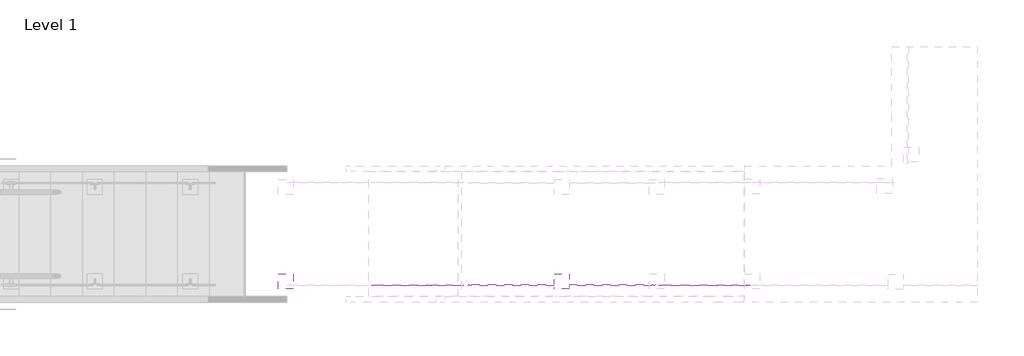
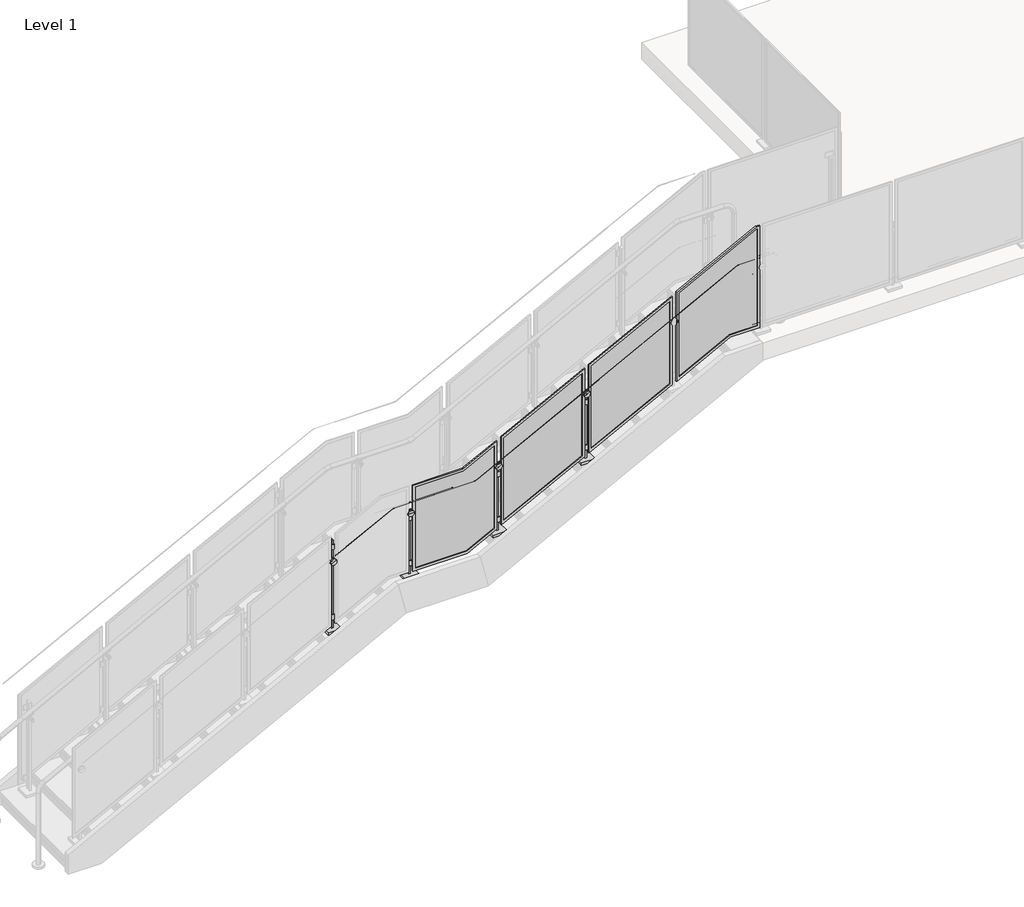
# One storey, part 11 of 28: 4 railings.
"""IFC4 building model written with IfcOpenShell, lengths in millimetres."""

from ifc_helpers import new_model, si_unit, point, frame, frame_2d, origin, place, context, project, spatial, polyline, circle_curve, ellipse_curve, trimmed, segment, composite_curve, outline, extrude, transform, mapped, element, save
from ifc_brep_helpers import plane_surface, cylinder_surface, advanced_brep
from components import standard_pp01_6bf6f29d, standard_pp01_9a46c041

model = new_model("IFC4")

# Units and contexts
model_context = context("Model", 3, world=origin())
ifc_project = project(units=[si_unit("LENGTHUNIT", "METRE", prefix="MILLI")], contexts=[model_context])

# Site, building, storey
site = spatial("IfcSite", under=ifc_project)
building = spatial("IfcBuilding", under=site)
storey = spatial("IfcBuildingStorey", under=building, Name="Level 1", Elevation=0.0)

# Railings
placement = place(None, origin())
element("IfcRailing", 1, ObjectType="Metal-Panel-VIVA-STRUC-Slab-Top-Anchor-Stairs-Landing", at=placement, inside=storey, context=model_context, shape_type="SolidModel", body=[
    advanced_brep(
    [(-16484.3313244, -18664.9554387, 2381.2638324), (-16484.3313244, -18663.9554387, 2381.2638324), (-15931.7592018, -18664.9554387, 2668.3142857), (-15931.7592018, -18663.9554387, 2668.3142857), (-15144.3592018, -18664.9554387, 2668.3142857), (-15144.3592018, -18663.9554387, 2668.3142857), (-13959.1395244, -18664.9554387, 3284.0128194), (-13959.1395244, -18663.9554387, 3284.0128194)],
    [
        (0, 1, ellipse_curve(frame((-16484.3313244, -18664.4554387, 2381.2638324), z_axis=(-1.0, 0.0, 0.0), x_axis=(0.0, 0.0, -0.9999999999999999)), 0.5634403, 0.5)),
        (1, 0, ellipse_curve(frame((-16484.3313244, -18664.4554387, 2381.2638324), z_axis=(-1.0, 0.0, 0.0), x_axis=(0.0, 0.0, -0.9999999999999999)), 0.5634403, 0.5)),
        (0, 2),
        (2, 3, ellipse_curve(frame((-15931.7592018, -18664.4554387, 2668.3142857), z_axis=(-0.9714436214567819, 0.0, -0.23727050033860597), x_axis=(0.23727050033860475, 0.0, -0.9714436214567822)), 0.5146979, 0.5)),
        (3, 1),
        (3, 2, ellipse_curve(frame((-15931.7592018, -18664.4554387, 2668.3142857), z_axis=(-0.9714436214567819, 0.0, -0.23727050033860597), x_axis=(0.23727050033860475, 0.0, -0.9714436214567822)), 0.5146979, 0.5)),
        (2, 4),
        (4, 5, ellipse_curve(frame((-15144.3592018, -18664.4554387, 2668.3142857), z_axis=(-0.9714436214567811, 0.0, -0.23727050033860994), x_axis=(-0.2372705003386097, 0.0, 0.9714436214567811)), 0.5146979, 0.5)),
        (5, 3),
        (5, 4, ellipse_curve(frame((-15144.3592018, -18664.4554387, 2668.3142857), z_axis=(-0.9714436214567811, 0.0, -0.23727050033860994), x_axis=(-0.2372705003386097, 0.0, 0.9714436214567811)), 0.5146979, 0.5)),
        (6, 7, ellipse_curve(frame((-13959.1395244, -18664.4554387, 3284.0128194), z_axis=(1.0, 0.0, 0.0), x_axis=(0.0, 0.0, -1.0)), 0.5634403, 0.5)),
        (7, 6, ellipse_curve(frame((-13959.1395244, -18664.4554387, 3284.0128194), z_axis=(1.0, 0.0, 0.0), x_axis=(0.0, 0.0, -1.0)), 0.5634403, 0.5)),
        (4, 6),
        (7, 5),
    ],
    [
        plane_surface(frame((-16484.3313244, -18664.4554387, 2381.8272727), z_axis=(-1.0, 0.0, 0.0), x_axis=(0.0, 1.0, 0.0))),
        cylinder_surface(frame((-16484.1008295, -18664.4554387, 2381.38357), z_axis=(-0.8874054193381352, 0.0, -0.460989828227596), x_axis=(0.0, 1.0, 0.0)), 0.5),
        cylinder_surface(frame((-15931.8813244, -18664.4554387, 2668.3142857), z_axis=(-1.0, 0.0, 0.0), x_axis=(0.0, 1.0, 0.0)), 0.5),
        plane_surface(frame((-13959.1395244, -18664.4554387, 3284.5762597), z_axis=(1.0, 0.0, 0.0), x_axis=(0.0, 1.0, 0.0))),
        cylinder_surface(frame((-15144.2508295, -18664.4554387, 2668.370583), z_axis=(-0.8874054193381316, 0.0, -0.4609898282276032), x_axis=(0.0, 1.0, 0.0)), 0.5),
    ],
    [
        (0, [[1, 2]]),
        (1, [[-1, 3, 4, 5]]),
        (1, [[-2, -5, 6, -3]]),
        (2, [[-4, 7, 8, 9]]),
        (2, [[-6, -9, 10, -7]]),
        (3, [[11, 12]]),
        (4, [[-8, 13, -12, 14]]),
        (4, [[-10, -14, -11, -13]]),
    ],
),
    extrude(outline(polyline([(-14838.9708437, -18439.3382387), (-14762.7694052, -18439.3382387), (-14762.7694052, -18446.4502387), (-14838.9708437, -18446.4502387), (-14838.9708437, -18439.3382387)])), frame((0.0, 0.0, 2456.8331429), z_axis=(0.0, 0.0, 1.0), x_axis=(1.0, 0.0, 0.0)), (0.0, 0.0, 1.0), 50.8),
    extrude(outline(polyline([(-14838.9708437, -18439.3382387), (-14762.7694052, -18439.3382387), (-14762.7694052, -18446.4502387), (-14838.9708437, -18446.4502387), (-14838.9708437, -18439.3382387)])), frame((0.0, 0.0, 1999.6331429), z_axis=(0.0, 0.0, 1.0), x_axis=(1.0, 0.0, 0.0)), (0.0, 0.0, 1.0), 50.8),
    extrude(outline(composite_curve([segment(polyline([(2.9997401, 0.0), (0.0, 0.0)]), True, "CONTINUOUS"), segment(trimmed(circle_curve(frame_2d((-19.0451472, -1e-07)), 19.0451471), [point((0.0, 0.0))], [point((-23.6280664, 18.4855208))], True, "CARTESIAN"), True, "CONTINUOUS"), segment(polyline([(-23.6280664, 18.4855208), (-24.3499072, 21.3971159)]), True, "CONTINUOUS"), segment(trimmed(circle_curve(frame_2d((-19.0451472, -1e-07)), 22.0448871), [point((-24.3499072, 21.3971159))], [point((2.9997401, 0.0))], False, "CARTESIAN"), True, "CONTINUOUS")], self_intersect=False)), frame((-14863.3578349, -18385.2502387, 2605.6654072), z_axis=(0.887405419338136, 0.0, 0.46098982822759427), x_axis=(0.2840545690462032, -0.7876022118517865, -0.5468050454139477)), (0.0, 0.0, 1.0), 79.1184357),
    advanced_brep(
    [(-14788.4729468, -18370.2502387, 2547.3256434), (-14788.4729468, -18377.3939887, 2547.3256434), (-14788.4729468, -18363.1064887, 2547.3256434), (-14824.3321931, -18377.3939887, 2616.3546925), (-14824.3321931, -18370.2502387, 2616.3546925), (-14824.3321931, -18363.1064887, 2616.3546925)],
    [
        (0, 1),
        (1, 2, circle_curve(frame((-14788.4729468, -18370.2502387, 2547.3256434), z_axis=(0.4609898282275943, 0.0, -0.8874054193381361), x_axis=(0.0, 1.0, 0.0)), 7.14375)),
        (2, 0),
        (3, 4),
        (4, 5),
        (5, 3, circle_curve(frame((-14824.3321931, -18370.2502387, 2616.3546925), z_axis=(-0.4609898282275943, 0.0, 0.8874054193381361), x_axis=(0.0, 1.0, 0.0)), 7.14375)),
        (2, 1, circle_curve(frame((-14788.4729468, -18370.2502387, 2547.3256434), z_axis=(0.4609898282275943, 0.0, -0.8874054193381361), x_axis=(0.0, 1.0, 0.0)), 7.14375)),
        (3, 5, circle_curve(frame((-14824.3321931, -18370.2502387, 2616.3546925), z_axis=(-0.4609898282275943, 0.0, 0.8874054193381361), x_axis=(0.0, 1.0, 0.0)), 7.14375)),
        (1, 3),
        (5, 2),
    ],
    [
        plane_surface(frame((-14788.4729468, -18370.2502387, 2547.3256434), z_axis=(0.4609898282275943, 0.0, -0.8874054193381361), x_axis=(0.0, 1.0, 0.0))),
        plane_surface(frame((-14824.3321931, -18370.2502387, 2616.3546925), z_axis=(-0.4609898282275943, 0.0, 0.8874054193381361), x_axis=(0.0, 1.0, 0.0))),
        cylinder_surface(frame((-14671.5187469, -18370.2502387, 2322.1888087), z_axis=(0.4609898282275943, 0.0, -0.8874054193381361), x_axis=(0.0, 1.0, 0.0)), 7.14375),
    ],
    [
        (0, [[1, 2, 3]]),
        (1, [[4, 5, 6]]),
        (0, [[-3, 7, -1]]),
        (1, [[-5, -4, 8]]),
        (2, [[9, -6, 10, -2]]),
        (2, [[-10, -8, -9, -7]]),
    ],
),
    advanced_brep(
    [(-14827.6364904, -18455.9752387, 2557.2856047), (-14806.5051488, -18455.9752387, 2568.262925), (-14795.2351, -18455.9752387, 2574.1174958), (-14774.1037585, -18455.9752387, 2585.0948161), (-14827.6364904, -18463.9127387, 2557.2856047), (-14774.1037585, -18463.9127387, 2585.0948161), (-14827.6364904, -18438.5127387, 2557.2856047), (-14812.1401733, -18438.5127387, 2565.3356396), (-14789.6000756, -18438.5127387, 2577.0447812), (-14774.1037585, -18438.5127387, 2585.0948161), (-14827.6364904, -18446.4502387, 2557.2856047), (-14774.1037585, -18446.4502387, 2585.0948161), (-14800.8701244, -18463.9127387, 2571.1902104), (-14812.1401733, -18359.1377387, 2565.3356396), (-14800.8701244, -18359.1377387, 2571.1902104), (-14789.6000756, -18359.1377387, 2577.0447812), (-14806.5051488, -18446.4502387, 2568.262925), (-14795.2351, -18446.4502387, 2574.1174958)],
    [
        (0, 1),
        (1, 2, circle_curve(frame((-14800.8701244, -18455.9752387, 2571.1902104), z_axis=(0.0, -1.0, 0.0), x_axis=(0.8874054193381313, 0.0, 0.4609898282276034)), 6.35)),
        (2, 3),
        (3, 0, circle_curve(frame((-14800.8701244, -18455.9752387, 2571.1902104), z_axis=(0.0, 1.0, 0.0), x_axis=(0.8874054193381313, 0.0, 0.4609898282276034)), 30.1625)),
        (4, 0),
        (3, 5),
        (5, 4, circle_curve(frame((-14800.8701244, -18463.9127387, 2571.1902104), z_axis=(0.0, 1.0, 0.0), x_axis=(0.8874054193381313, 0.0, 0.4609898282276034)), 30.1625)),
        (6, 7),
        (7, 8, circle_curve(frame((-14800.8701244, -18438.5127387, 2571.1902104), z_axis=(0.0, -1.0, 0.0), x_axis=(0.8874054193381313, 0.0, 0.4609898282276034)), 12.7)),
        (8, 9),
        (9, 6, circle_curve(frame((-14800.8701244, -18438.5127387, 2571.1902104), z_axis=(0.0, 1.0, 0.0), x_axis=(0.8874054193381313, 0.0, 0.4609898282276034)), 30.1625)),
        (10, 6),
        (9, 11),
        (11, 10, circle_curve(frame((-14800.8701244, -18446.4502387, 2571.1902104), z_axis=(0.0, 1.0, 0.0), x_axis=(0.8874054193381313, 0.0, 0.4609898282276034)), 30.1625)),
        (3, 0, circle_curve(frame((-14800.8701244, -18455.9752387, 2571.1902104), z_axis=(0.0, -1.0, 0.0), x_axis=(0.8874054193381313, 0.0, 0.4609898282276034)), 30.1625)),
        (4, 5, circle_curve(frame((-14800.8701244, -18463.9127387, 2571.1902104), z_axis=(0.0, 1.0, 0.0), x_axis=(0.8874054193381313, 0.0, 0.4609898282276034)), 30.1625)),
        (12, 4),
        (5, 12),
        (13, 14),
        (14, 15),
        (15, 13, circle_curve(frame((-14800.8701244, -18359.1377387, 2571.1902104), z_axis=(0.0, 1.0, 0.0), x_axis=(0.8874054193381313, 0.0, 0.4609898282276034)), 12.7)),
        (13, 15, circle_curve(frame((-14800.8701244, -18359.1377387, 2571.1902104), z_axis=(0.0, 1.0, 0.0), x_axis=(0.8874054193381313, 0.0, 0.4609898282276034)), 12.7)),
        (7, 13),
        (15, 8),
        (7, 8, circle_curve(frame((-14800.8701244, -18438.5127387, 2571.1902104), z_axis=(0.0, 1.0, 0.0), x_axis=(0.8874054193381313, 0.0, 0.4609898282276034)), 12.7)),
        (6, 9, circle_curve(frame((-14800.8701244, -18438.5127387, 2571.1902104), z_axis=(0.0, 1.0, 0.0), x_axis=(0.8874054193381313, 0.0, 0.4609898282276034)), 30.1625)),
        (10, 11, circle_curve(frame((-14800.8701244, -18446.4502387, 2571.1902104), z_axis=(0.0, 1.0, 0.0), x_axis=(0.8874054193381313, 0.0, 0.4609898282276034)), 30.1625)),
        (16, 10),
        (11, 17),
        (17, 16, circle_curve(frame((-14800.8701244, -18446.4502387, 2571.1902104), z_axis=(0.0, 1.0, 0.0), x_axis=(0.8874054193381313, 0.0, 0.4609898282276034)), 6.35)),
        (16, 17, circle_curve(frame((-14800.8701244, -18446.4502387, 2571.1902104), z_axis=(0.0, 1.0, 0.0), x_axis=(0.8874054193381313, 0.0, 0.4609898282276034)), 6.35)),
        (1, 16),
        (17, 2),
        (1, 2, circle_curve(frame((-14800.8701244, -18455.9752387, 2571.1902104), z_axis=(0.0, 1.0, 0.0), x_axis=(0.8874054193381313, 0.0, 0.4609898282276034)), 6.35)),
    ],
    [
        plane_surface(frame((-14800.8701244, -18455.9752387, 2571.1902104), z_axis=(0.0, 1.0, 0.0), x_axis=(0.8874054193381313, 0.0, 0.4609898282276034))),
        cylinder_surface(frame((-14800.8701244, -19970.4502387, 2571.1902104), z_axis=(0.0, -1.0, 0.0), x_axis=(0.8874054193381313, 0.0, 0.4609898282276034)), 30.1625),
        plane_surface(frame((-14800.8701244, -18438.5127387, 2571.1902104), z_axis=(0.0, 1.0, 0.0), x_axis=(0.8874054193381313, 0.0, 0.4609898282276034))),
        plane_surface(frame((-14800.8701244, -18463.9127387, 2571.1902104), z_axis=(0.0, -1.0, 0.0), x_axis=(0.8874054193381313, 0.0, 0.4609898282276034))),
        plane_surface(frame((-14800.8701244, -18359.1377387, 2571.1902104), z_axis=(0.0, 1.0, 0.0), x_axis=(0.8874054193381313, 0.0, 0.4609898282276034))),
        cylinder_surface(frame((-14800.8701244, -19970.4502387, 2571.1902104), z_axis=(0.0, -1.0, 0.0), x_axis=(0.8874054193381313, 0.0, 0.4609898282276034)), 12.7),
        plane_surface(frame((-14800.8701244, -18446.4502387, 2571.1902104), z_axis=(0.0, -1.0, 0.0), x_axis=(0.8874054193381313, 0.0, 0.4609898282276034))),
        cylinder_surface(frame((-14800.8701244, -19970.4502387, 2571.1902104), z_axis=(0.0, -1.0, 0.0), x_axis=(0.8874054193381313, 0.0, 0.4609898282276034)), 6.35),
    ],
    [
        (0, [[1, 2, 3, 4]]),
        (1, [[5, -4, 6, 7]]),
        (2, [[8, 9, 10, 11]]),
        (1, [[12, -11, 13, 14]]),
        (1, [[-6, 15, -5, 16]]),
        (3, [[17, -7, 18]]),
        (3, [[-18, -16, -17]]),
        (4, [[19, 20, 21]]),
        (4, [[-20, -19, 22]]),
        (5, [[23, -21, 24, -9]]),
        (5, [[-24, -22, -23, 25]]),
        (2, [[-10, -25, -8, 26]]),
        (1, [[-13, -26, -12, 27]]),
        (6, [[28, -14, 29, 30]]),
        (6, [[-29, -27, -28, 31]]),
        (7, [[32, -30, 33, -2]]),
        (7, [[-33, -31, -32, 34]]),
        (0, [[-3, -34, -1, -15]]),
    ],
),
    extrude(outline(polyline([(-14866.7577244, -18351.2256387), (-14734.9825244, -18351.2256387), (-14734.9825244, -18483.0008387), (-14866.7577244, -18483.0008387), (-14866.7577244, -18351.2256387)])), frame((0.0, 0.0, 1886.8571429), z_axis=(0.0, 0.0, 1.0), x_axis=(1.0, 0.0, 0.0)), (0.0, 0.0, 1.0), 25.4),
    extrude(outline(polyline([(-14808.8097161, -18394.8882387), (-14792.9305328, -18394.8882387), (-14792.9305328, -18439.3382387), (-14808.8097161, -18439.3382387), (-14808.8097161, -18394.8882387)])), frame((0.0, 0.0, 1886.8571429), z_axis=(0.0, 0.0, 1.0), x_axis=(1.0, 0.0, 0.0)), (0.0, 0.0, 1.0), 660.4),
    extrude(outline(polyline([(-15680.7014437, -18439.3382387), (-15604.5000052, -18439.3382387), (-15604.5000052, -18446.4502387), (-15680.7014437, -18446.4502387), (-15680.7014437, -18439.3382387)])), frame((0.0, 0.0, 2311.6902857), z_axis=(0.0, 0.0, 1.0), x_axis=(1.0, 0.0, 0.0)), (0.0, 0.0, 1.0), 50.8),
    extrude(outline(polyline([(-15680.7014437, -18439.3382387), (-15604.5000052, -18439.3382387), (-15604.5000052, -18446.4502387), (-15680.7014437, -18446.4502387), (-15680.7014437, -18439.3382387)])), frame((0.0, 0.0, 1854.4902857), z_axis=(0.0, 0.0, 1.0), x_axis=(1.0, 0.0, 0.0)), (0.0, 0.0, 1.0), 50.8),
    extrude(outline(composite_curve([segment(polyline([(-18387.6128406, 2450.2421693), (-18385.2502387, 2452.0905611)]), True, "CONTINUOUS"), segment(trimmed(circle_curve(frame_2d((-18370.2502387, 2463.8258766)), 19.0451471), [point((-18385.2502387, 2452.0905611))], [point((-18355.2502387, 2452.0905611))], True, "CARTESIAN"), True, "CONTINUOUS"), segment(polyline([(-18355.2502387, 2452.0905611), (-18352.8876369, 2450.2421693)]), True, "CONTINUOUS"), segment(trimmed(circle_curve(frame_2d((-18370.2502387, 2463.8258766)), 22.0448871), [point((-18352.8876369, 2450.2421693))], [point((-18387.6128406, 2450.2421693))], False, "CARTESIAN"), True, "CONTINUOUS")], self_intersect=False)), frame((-15682.1599423, 0.0, 0.0), z_axis=(1.0, 0.0, 0.0), x_axis=(0.0, 1.0, 0.0)), (0.0, 0.0, 1.0), 79.1184357),
    advanced_brep(
    [(-15642.6007244, -18370.2502387, 2365.7983669), (-15642.6007244, -18377.3939887, 2365.7983669), (-15642.6007244, -18363.1064887, 2365.7983669), (-15642.6007244, -18377.3939887, 2443.5858669), (-15642.6007244, -18370.2502387, 2443.5858669), (-15642.6007244, -18363.1064887, 2443.5858669)],
    [
        (0, 1),
        (1, 2, circle_curve(frame((-15642.6007244, -18370.2502387, 2365.7983669), z_axis=(0.0, 0.0, -1.0), x_axis=(0.0, 1.0, 0.0)), 7.14375)),
        (2, 0),
        (3, 4),
        (4, 5),
        (5, 3, circle_curve(frame((-15642.6007244, -18370.2502387, 2443.5858669), z_axis=(0.0, 0.0, 1.0), x_axis=(0.0, 1.0, 0.0)), 7.14375)),
        (2, 1, circle_curve(frame((-15642.6007244, -18370.2502387, 2365.7983669), z_axis=(0.0, 0.0, -1.0), x_axis=(0.0, 1.0, 0.0)), 7.14375)),
        (3, 5, circle_curve(frame((-15642.6007244, -18370.2502387, 2443.5858669), z_axis=(0.0, 0.0, 1.0), x_axis=(0.0, 1.0, 0.0)), 7.14375)),
        (1, 3),
        (5, 2),
    ],
    [
        plane_surface(frame((-15642.6007244, -18370.2502387, 2365.7983669), z_axis=(0.0, 0.0, -1.0), x_axis=(0.0, 1.0, 0.0))),
        plane_surface(frame((-15642.6007244, -18370.2502387, 2443.5858669), z_axis=(0.0, 0.0, 1.0), x_axis=(0.0, 1.0, 0.0))),
        cylinder_surface(frame((-15642.6007244, -18370.2502387, 2112.0960231), z_axis=(0.0, 0.0, -1.0), x_axis=(0.0, 1.0, 0.0)), 7.14375),
    ],
    [
        (0, [[1, 2, 3]]),
        (1, [[4, 5, 6]]),
        (0, [[-3, 7, -1]]),
        (1, [[-5, -4, 8]]),
        (2, [[9, -6, 10, -2]]),
        (2, [[-10, -8, -9, -7]]),
    ],
),
    advanced_brep(
    [(-15672.7632244, -18455.9752387, 2392.6908857), (-15648.9507244, -18455.9752387, 2392.6908857), (-15636.2507244, -18455.9752387, 2392.6908857), (-15612.4382244, -18455.9752387, 2392.6908857), (-15672.7632244, -18463.9127387, 2392.6908857), (-15612.4382244, -18463.9127387, 2392.6908857), (-15672.7632244, -18438.5127387, 2392.6908857), (-15655.3007244, -18438.5127387, 2392.6908857), (-15629.9007244, -18438.5127387, 2392.6908857), (-15612.4382244, -18438.5127387, 2392.6908857), (-15672.7632244, -18446.4502387, 2392.6908857), (-15612.4382244, -18446.4502387, 2392.6908857), (-15642.6007244, -18463.9127387, 2392.6908857), (-15655.3007244, -18359.1377387, 2392.6908857), (-15642.6007244, -18359.1377387, 2392.6908857), (-15629.9007244, -18359.1377387, 2392.6908857), (-15648.9507244, -18446.4502387, 2392.6908857), (-15636.2507244, -18446.4502387, 2392.6908857)],
    [
        (0, 1),
        (1, 2, circle_curve(frame((-15642.6007244, -18455.9752387, 2392.6908857), z_axis=(0.0, -1.0, 0.0), x_axis=(1.0, 0.0, 0.0)), 6.35)),
        (2, 3),
        (3, 0, circle_curve(frame((-15642.6007244, -18455.9752387, 2392.6908857), z_axis=(0.0, 1.0, 0.0), x_axis=(1.0, 0.0, 0.0)), 30.1625)),
        (4, 0),
        (3, 5),
        (5, 4, circle_curve(frame((-15642.6007244, -18463.9127387, 2392.6908857), z_axis=(0.0, 1.0, 0.0), x_axis=(1.0, 0.0, 0.0)), 30.1625)),
        (6, 7),
        (7, 8, circle_curve(frame((-15642.6007244, -18438.5127387, 2392.6908857), z_axis=(0.0, -1.0, 0.0), x_axis=(1.0, 0.0, 0.0)), 12.7)),
        (8, 9),
        (9, 6, circle_curve(frame((-15642.6007244, -18438.5127387, 2392.6908857), z_axis=(0.0, 1.0, 0.0), x_axis=(1.0, 0.0, 0.0)), 30.1625)),
        (10, 6),
        (9, 11),
        (11, 10, circle_curve(frame((-15642.6007244, -18446.4502387, 2392.6908857), z_axis=(0.0, 1.0, 0.0), x_axis=(1.0, 0.0, 0.0)), 30.1625)),
        (3, 0, circle_curve(frame((-15642.6007244, -18455.9752387, 2392.6908857), z_axis=(0.0, -1.0, 0.0), x_axis=(1.0, 0.0, 0.0)), 30.1625)),
        (4, 5, circle_curve(frame((-15642.6007244, -18463.9127387, 2392.6908857), z_axis=(0.0, 1.0, 0.0), x_axis=(1.0, 0.0, 0.0)), 30.1625)),
        (12, 4),
        (5, 12),
        (13, 14),
        (14, 15),
        (15, 13, circle_curve(frame((-15642.6007244, -18359.1377387, 2392.6908857), z_axis=(0.0, 1.0, 0.0), x_axis=(1.0, 0.0, 0.0)), 12.7)),
        (13, 15, circle_curve(frame((-15642.6007244, -18359.1377387, 2392.6908857), z_axis=(0.0, 1.0, 0.0), x_axis=(1.0, 0.0, 0.0)), 12.7)),
        (7, 13),
        (15, 8),
        (7, 8, circle_curve(frame((-15642.6007244, -18438.5127387, 2392.6908857), z_axis=(0.0, 1.0, 0.0), x_axis=(1.0, 0.0, 0.0)), 12.7)),
        (6, 9, circle_curve(frame((-15642.6007244, -18438.5127387, 2392.6908857), z_axis=(0.0, 1.0, 0.0), x_axis=(1.0, 0.0, 0.0)), 30.1625)),
        (10, 11, circle_curve(frame((-15642.6007244, -18446.4502387, 2392.6908857), z_axis=(0.0, 1.0, 0.0), x_axis=(1.0, 0.0, 0.0)), 30.1625)),
        (16, 10),
        (11, 17),
        (17, 16, circle_curve(frame((-15642.6007244, -18446.4502387, 2392.6908857), z_axis=(0.0, 1.0, 0.0), x_axis=(1.0, 0.0, 0.0)), 6.35)),
        (16, 17, circle_curve(frame((-15642.6007244, -18446.4502387, 2392.6908857), z_axis=(0.0, 1.0, 0.0), x_axis=(1.0, 0.0, 0.0)), 6.35)),
        (1, 16),
        (17, 2),
        (1, 2, circle_curve(frame((-15642.6007244, -18455.9752387, 2392.6908857), z_axis=(0.0, 1.0, 0.0), x_axis=(1.0, 0.0, 0.0)), 6.35)),
    ],
    [
        plane_surface(frame((-15642.6007244, -18455.9752387, 2392.6908857), z_axis=(0.0, 1.0, 0.0), x_axis=(1.0, 0.0, 0.0))),
        cylinder_surface(frame((-15642.6007244, -19970.4502387, 2392.6908857), z_axis=(0.0, -1.0, 0.0), x_axis=(1.0, 0.0, 0.0)), 30.1625),
        plane_surface(frame((-15642.6007244, -18438.5127387, 2392.6908857), z_axis=(0.0, 1.0, 0.0), x_axis=(1.0, 0.0, 0.0))),
        plane_surface(frame((-15642.6007244, -18463.9127387, 2392.6908857), z_axis=(0.0, -1.0, 0.0), x_axis=(1.0, 0.0, 0.0))),
        plane_surface(frame((-15642.6007244, -18359.1377387, 2392.6908857), z_axis=(0.0, 1.0, 0.0), x_axis=(1.0, 0.0, 0.0))),
        cylinder_surface(frame((-15642.6007244, -19970.4502387, 2392.6908857), z_axis=(0.0, -1.0, 0.0), x_axis=(1.0, 0.0, 0.0)), 12.7),
        plane_surface(frame((-15642.6007244, -18446.4502387, 2392.6908857), z_axis=(0.0, -1.0, 0.0), x_axis=(1.0, 0.0, 0.0))),
        cylinder_surface(frame((-15642.6007244, -19970.4502387, 2392.6908857), z_axis=(0.0, -1.0, 0.0), x_axis=(1.0, 0.0, 0.0)), 6.35),
    ],
    [
        (0, [[1, 2, 3, 4]]),
        (1, [[5, -4, 6, 7]]),
        (2, [[8, 9, 10, 11]]),
        (1, [[12, -11, 13, 14]]),
        (1, [[-6, 15, -5, 16]]),
        (3, [[17, -7, 18]]),
        (3, [[-18, -16, -17]]),
        (4, [[19, 20, 21]]),
        (4, [[-20, -19, 22]]),
        (5, [[23, -21, 24, -9]]),
        (5, [[-24, -22, -23, 25]]),
        (2, [[-10, -25, -8, 26]]),
        (1, [[-13, -26, -12, 27]]),
        (6, [[28, -14, 29, 30]]),
        (6, [[-29, -27, -28, 31]]),
        (7, [[32, -30, 33, -2]]),
        (7, [[-33, -31, -32, 34]]),
        (0, [[-3, -34, -1, -15]]),
    ],
),
    extrude(outline(polyline([(-15708.4883244, -18351.2256387), (-15576.7131244, -18351.2256387), (-15576.7131244, -18483.0008387), (-15708.4883244, -18483.0008387), (-15708.4883244, -18351.2256387)])), frame((0.0, 0.0, 1741.7142857), z_axis=(0.0, 0.0, 1.0), x_axis=(1.0, 0.0, 0.0)), (0.0, 0.0, 1.0), 25.4),
    extrude(outline(polyline([(-15650.5403161, -18394.8882387), (-15634.6611328, -18394.8882387), (-15634.6611328, -18439.3382387), (-15650.5403161, -18439.3382387), (-15650.5403161, -18394.8882387)])), frame((0.0, 0.0, 1741.7142857), z_axis=(0.0, 0.0, 1.0), x_axis=(1.0, 0.0, 0.0)), (0.0, 0.0, 1.0), 660.4),
    extrude(outline(polyline([(-16420.8320437, -18439.3382387), (-16344.6306052, -18439.3382387), (-16344.6306052, -18446.4502387), (-16420.8320437, -18446.4502387), (-16420.8320437, -18439.3382387)])), frame((0.0, 0.0, 2275.4045714), z_axis=(0.0, 0.0, 1.0), x_axis=(1.0, 0.0, 0.0)), (0.0, 0.0, 1.0), 50.8),
    extrude(outline(polyline([(-16420.8320437, -18439.3382387), (-16344.6306052, -18439.3382387), (-16344.6306052, -18446.4502387), (-16420.8320437, -18446.4502387), (-16420.8320437, -18439.3382387)])), frame((0.0, 0.0, 1564.2045714), z_axis=(0.0, 0.0, 1.0), x_axis=(1.0, 0.0, 0.0)), (0.0, 0.0, 1.0), 50.8),
    extrude(outline(composite_curve([segment(polyline([(2.99974, -1e-07), (0.0, 0.0)]), True, "CONTINUOUS"), segment(trimmed(circle_curve(frame_2d((-19.0451472, -1e-07)), 19.0451471), [point((0.0, 0.0))], [point((-23.6280664, 18.4855208))], True, "CARTESIAN"), True, "CONTINUOUS"), segment(polyline([(-23.6280664, 18.4855208), (-24.3499072, 21.3971158)]), True, "CONTINUOUS"), segment(trimmed(circle_curve(frame_2d((-19.0451472, -1e-07)), 22.0448871), [point((-24.3499072, 21.3971158))], [point((2.99974, -1e-07))], False, "CARTESIAN"), True, "CONTINUOUS")], self_intersect=False)), frame((-16445.2190349, -18385.2502387, 2192.9582903), z_axis=(0.8874054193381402, 0.0, 0.4609898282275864), x_axis=(0.28405456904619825, -0.7876022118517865, -0.5468050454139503)), (0.0, 0.0, 1.0), 79.1184357),
    advanced_brep(
    [(-16370.3341468, -18370.2502387, 2134.6185266), (-16370.3341468, -18377.3939887, 2134.6185266), (-16370.3341468, -18363.1064887, 2134.6185266), (-16406.1933931, -18377.3939887, 2203.6475756), (-16406.1933931, -18370.2502387, 2203.6475756), (-16406.1933931, -18363.1064887, 2203.6475756)],
    [
        (0, 1),
        (1, 2, circle_curve(frame((-16370.3341468, -18370.2502387, 2134.6185266), z_axis=(0.4609898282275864, 0.0, -0.8874054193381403), x_axis=(0.0, 1.0000000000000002, 0.0)), 7.14375)),
        (2, 0),
        (3, 4),
        (4, 5),
        (5, 3, circle_curve(frame((-16406.1933931, -18370.2502387, 2203.6475756), z_axis=(-0.4609898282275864, 0.0, 0.8874054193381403), x_axis=(0.0, 1.0000000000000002, 0.0)), 7.14375)),
        (2, 1, circle_curve(frame((-16370.3341468, -18370.2502387, 2134.6185266), z_axis=(0.4609898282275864, 0.0, -0.8874054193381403), x_axis=(0.0, 1.0000000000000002, 0.0)), 7.14375)),
        (3, 5, circle_curve(frame((-16406.1933931, -18370.2502387, 2203.6475756), z_axis=(-0.4609898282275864, 0.0, 0.8874054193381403), x_axis=(0.0, 1.0000000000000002, 0.0)), 7.14375)),
        (1, 3),
        (5, 2),
    ],
    [
        plane_surface(frame((-16370.3341468, -18370.2502387, 2134.6185266), z_axis=(0.4609898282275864, 0.0, -0.8874054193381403), x_axis=(0.0, 1.0, 0.0))),
        plane_surface(frame((-16406.1933931, -18370.2502387, 2203.6475756), z_axis=(-0.4609898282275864, 0.0, 0.8874054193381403), x_axis=(0.0, 1.0, 0.0))),
        cylinder_surface(frame((-16253.3799469, -18370.2502387, 1909.4816918), z_axis=(0.4609898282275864, 0.0, -0.8874054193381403), x_axis=(0.0, 1.0000000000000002, 0.0)), 7.14375),
    ],
    [
        (0, [[1, 2, 3]]),
        (1, [[4, 5, 6]]),
        (0, [[-3, 7, -1]]),
        (1, [[-5, -4, 8]]),
        (2, [[9, -6, 10, -2]]),
        (2, [[-10, -8, -9, -7]]),
    ],
),
    advanced_brep(
    [(-16409.4976904, -18455.9752387, 2144.5784878), (-16388.3663488, -18455.9752387, 2155.5558081), (-16377.0963, -18455.9752387, 2161.4103789), (-16355.9649585, -18455.9752387, 2172.3876992), (-16409.4976904, -18463.9127387, 2144.5784878), (-16355.9649585, -18463.9127387, 2172.3876992), (-16409.4976904, -18438.5127387, 2144.5784878), (-16394.0013733, -18438.5127387, 2152.6285227), (-16371.4612756, -18438.5127387, 2164.3376643), (-16355.9649585, -18438.5127387, 2172.3876992), (-16409.4976904, -18446.4502387, 2144.5784878), (-16355.9649585, -18446.4502387, 2172.3876992), (-16382.7313244, -18463.9127387, 2158.4830935), (-16394.0013733, -18359.1377387, 2152.6285227), (-16382.7313244, -18359.1377387, 2158.4830935), (-16371.4612756, -18359.1377387, 2164.3376643), (-16388.3663488, -18446.4502387, 2155.5558081), (-16377.0963, -18446.4502387, 2161.4103789)],
    [
        (0, 1),
        (1, 2, circle_curve(frame((-16382.7313244, -18455.9752387, 2158.4830935), z_axis=(0.0, -1.0, 0.0), x_axis=(0.8874054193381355, 0.0, 0.4609898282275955)), 6.35)),
        (2, 3),
        (3, 0, circle_curve(frame((-16382.7313244, -18455.9752387, 2158.4830935), z_axis=(0.0, 1.0, 0.0), x_axis=(0.8874054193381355, 0.0, 0.4609898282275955)), 30.1625)),
        (4, 0),
        (3, 5),
        (5, 4, circle_curve(frame((-16382.7313244, -18463.9127387, 2158.4830935), z_axis=(0.0, 1.0, 0.0), x_axis=(0.8874054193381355, 0.0, 0.4609898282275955)), 30.1625)),
        (6, 7),
        (7, 8, circle_curve(frame((-16382.7313244, -18438.5127387, 2158.4830935), z_axis=(0.0, -1.0, 0.0), x_axis=(0.8874054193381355, 0.0, 0.4609898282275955)), 12.7)),
        (8, 9),
        (9, 6, circle_curve(frame((-16382.7313244, -18438.5127387, 2158.4830935), z_axis=(0.0, 1.0, 0.0), x_axis=(0.8874054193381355, 0.0, 0.4609898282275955)), 30.1625)),
        (10, 6),
        (9, 11),
        (11, 10, circle_curve(frame((-16382.7313244, -18446.4502387, 2158.4830935), z_axis=(0.0, 1.0, 0.0), x_axis=(0.8874054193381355, 0.0, 0.4609898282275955)), 30.1625)),
        (3, 0, circle_curve(frame((-16382.7313244, -18455.9752387, 2158.4830935), z_axis=(0.0, -1.0, 0.0), x_axis=(0.8874054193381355, 0.0, 0.4609898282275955)), 30.1625)),
        (4, 5, circle_curve(frame((-16382.7313244, -18463.9127387, 2158.4830935), z_axis=(0.0, 1.0, 0.0), x_axis=(0.8874054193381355, 0.0, 0.4609898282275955)), 30.1625)),
        (12, 4),
        (5, 12),
        (13, 14),
        (14, 15),
        (15, 13, circle_curve(frame((-16382.7313244, -18359.1377387, 2158.4830935), z_axis=(0.0, 1.0, 0.0), x_axis=(0.8874054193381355, 0.0, 0.4609898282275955)), 12.7)),
        (13, 15, circle_curve(frame((-16382.7313244, -18359.1377387, 2158.4830935), z_axis=(0.0, 1.0, 0.0), x_axis=(0.8874054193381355, 0.0, 0.4609898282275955)), 12.7)),
        (7, 13),
        (15, 8),
        (7, 8, circle_curve(frame((-16382.7313244, -18438.5127387, 2158.4830935), z_axis=(0.0, 1.0, 0.0), x_axis=(0.8874054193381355, 0.0, 0.4609898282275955)), 12.7)),
        (6, 9, circle_curve(frame((-16382.7313244, -18438.5127387, 2158.4830935), z_axis=(0.0, 1.0, 0.0), x_axis=(0.8874054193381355, 0.0, 0.4609898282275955)), 30.1625)),
        (10, 11, circle_curve(frame((-16382.7313244, -18446.4502387, 2158.4830935), z_axis=(0.0, 1.0, 0.0), x_axis=(0.8874054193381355, 0.0, 0.4609898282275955)), 30.1625)),
        (16, 10),
        (11, 17),
        (17, 16, circle_curve(frame((-16382.7313244, -18446.4502387, 2158.4830935), z_axis=(0.0, 1.0, 0.0), x_axis=(0.8874054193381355, 0.0, 0.4609898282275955)), 6.35)),
        (16, 17, circle_curve(frame((-16382.7313244, -18446.4502387, 2158.4830935), z_axis=(0.0, 1.0, 0.0), x_axis=(0.8874054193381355, 0.0, 0.4609898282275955)), 6.35)),
        (1, 16),
        (17, 2),
        (1, 2, circle_curve(frame((-16382.7313244, -18455.9752387, 2158.4830935), z_axis=(0.0, 1.0, 0.0), x_axis=(0.8874054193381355, 0.0, 0.4609898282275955)), 6.35)),
    ],
    [
        plane_surface(frame((-16382.7313244, -18455.9752387, 2158.4830935), z_axis=(0.0, 1.0000000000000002, 0.0), x_axis=(0.8874054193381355, 0.0, 0.4609898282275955))),
        cylinder_surface(frame((-16382.7313244, -19970.4502387, 2158.4830935), z_axis=(0.0, -1.0000000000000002, 0.0), x_axis=(0.8874054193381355, 0.0, 0.4609898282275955)), 30.1625),
        plane_surface(frame((-16382.7313244, -18438.5127387, 2158.4830935), z_axis=(0.0, 1.0000000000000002, 0.0), x_axis=(0.8874054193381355, 0.0, 0.4609898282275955))),
        plane_surface(frame((-16382.7313244, -18463.9127387, 2158.4830935), z_axis=(0.0, -1.0000000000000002, 0.0), x_axis=(0.8874054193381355, 0.0, 0.4609898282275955))),
        plane_surface(frame((-16382.7313244, -18359.1377387, 2158.4830935), z_axis=(0.0, 1.0000000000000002, 0.0), x_axis=(0.8874054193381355, 0.0, 0.4609898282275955))),
        cylinder_surface(frame((-16382.7313244, -19970.4502387, 2158.4830935), z_axis=(0.0, -1.0000000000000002, 0.0), x_axis=(0.8874054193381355, 0.0, 0.4609898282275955)), 12.7),
        plane_surface(frame((-16382.7313244, -18446.4502387, 2158.4830935), z_axis=(0.0, -1.0000000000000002, 0.0), x_axis=(0.8874054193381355, 0.0, 0.4609898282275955))),
        cylinder_surface(frame((-16382.7313244, -19970.4502387, 2158.4830935), z_axis=(0.0, -1.0000000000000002, 0.0), x_axis=(0.8874054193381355, 0.0, 0.4609898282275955)), 6.35),
    ],
    [
        (0, [[1, 2, 3, 4]]),
        (1, [[5, -4, 6, 7]]),
        (2, [[8, 9, 10, 11]]),
        (1, [[12, -11, 13, 14]]),
        (1, [[-6, 15, -5, 16]]),
        (3, [[17, -7, 18]]),
        (3, [[-18, -16, -17]]),
        (4, [[19, 20, 21]]),
        (4, [[-20, -19, 22]]),
        (5, [[23, -21, 24, -9]]),
        (5, [[-24, -22, -23, 25]]),
        (2, [[-10, -25, -8, 26]]),
        (1, [[-13, -26, -12, 27]]),
        (6, [[28, -14, 29, 30]]),
        (6, [[-29, -27, -28, 31]]),
        (7, [[32, -30, 33, -2]]),
        (7, [[-33, -31, -32, 34]]),
        (0, [[-3, -34, -1, -15]]),
    ],
),
    extrude(outline(polyline([(-16448.6189244, -18351.2256387), (-16316.8437244, -18351.2256387), (-16316.8437244, -18483.0008387), (-16448.6189244, -18483.0008387), (-16448.6189244, -18351.2256387)])), frame((0.0, 0.0, 1451.4285714), z_axis=(0.0, 0.0, 1.0), x_axis=(1.0, 0.0, 0.0)), (0.0, 0.0, 1.0), 25.4),
    extrude(outline(polyline([(-16390.6709161, -18394.8882387), (-16374.7917328, -18394.8882387), (-16374.7917328, -18439.3382387), (-16390.6709161, -18439.3382387), (-16390.6709161, -18394.8882387)])), frame((0.0, 0.0, 1451.4285714), z_axis=(0.0, 0.0, 1.0), x_axis=(1.0, 0.0, 0.0)), (0.0, 0.0, 1.0), 914.4),
])
element("IfcRailing", 2, ObjectType="Metal-Panel-VIVA-STRUC-Slab-Top-Anchor-Stairs-Upper", at=placement, inside=storey, context=model_context, shape_type="SolidModel", body=[
    advanced_brep(
    [(-14795.2265621, -18664.9554387, 2849.6818907), (-14795.2265621, -18663.9554387, 2849.6818907), (-13118.8265621, -18664.9554387, 3720.5390336), (-13118.8265621, -18663.9554387, 3720.5390336)],
    [
        (0, 1, ellipse_curve(frame((-14795.2265621, -18664.4554387, 2849.6818907), z_axis=(-1.0, 0.0, 0.0), x_axis=(0.0, 0.0, -1.0)), 0.5634403, 0.5)),
        (1, 0, ellipse_curve(frame((-14795.2265621, -18664.4554387, 2849.6818907), z_axis=(-1.0, 0.0, 0.0), x_axis=(0.0, 0.0, -1.0)), 0.5634403, 0.5)),
        (2, 3, ellipse_curve(frame((-13118.8265621, -18664.4554387, 3720.5390336), z_axis=(1.0, 0.0, 0.0), x_axis=(0.0, 0.0, -1.0)), 0.5634403, 0.5)),
        (3, 2, ellipse_curve(frame((-13118.8265621, -18664.4554387, 3720.5390336), z_axis=(1.0, 0.0, 0.0), x_axis=(0.0, 0.0, -1.0)), 0.5634403, 0.5)),
        (0, 2),
        (3, 1),
    ],
    [
        plane_surface(frame((-14795.2265621, -18664.4554387, 2850.2453311), z_axis=(-1.0, 0.0, 0.0), x_axis=(0.0, 1.0, 0.0))),
        plane_surface(frame((-13118.8265621, -18664.4554387, 3721.1024739), z_axis=(1.0, 0.0, 0.0), x_axis=(0.0, 1.0, 0.0))),
        cylinder_surface(frame((-14794.9960672, -18664.4554387, 2849.8016284), z_axis=(-0.8874054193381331, 0.0, -0.4609898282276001), x_axis=(0.0, 1.0, 0.0)), 0.5),
    ],
    [
        (0, [[1, 2]]),
        (1, [[3, 4]]),
        (2, [[-1, 5, -4, 6]]),
        (2, [[-2, -6, -3, -5]]),
    ],
),
    extrude(outline(polyline([(3277.6949144, -13912.5806052), (2443.6978914, -13912.5806052), (2832.9488452, -13163.2725191), (3666.9458682, -13163.2725191), (3277.6949144, -13912.5806052)])), frame((0.0, -18449.8044387, 0.0), z_axis=(0.0, 1.0, 0.0), x_axis=(0.0, 0.0, 1.0)), (0.0, 0.0, 1.0), 3.0),
    extrude(outline(polyline([(2401.8803176, -13937.9806052), (2817.5208818, -13137.8725191), (3708.7634421, -13137.8725191), (3293.1228778, -13937.9806052), (2401.8803176, -13937.9806052)]), holes=[polyline([(3277.6949144, -13912.5806052), (3666.9458682, -13163.2725191), (2832.9488452, -13163.2725191), (2443.6978914, -13912.5806052), (3277.6949144, -13912.5806052)])]), frame((0.0, -18456.3294387, 0.0), z_axis=(0.0, 1.0, 0.0), x_axis=(0.0, 0.0, 1.0)), (0.0, 0.0, 1.0), 9.525),
    extrude(outline(polyline([(-13995.1272814, -18439.3382387), (-13918.9258429, -18439.3382387), (-13918.9258429, -18446.4502387), (-13995.1272814, -18446.4502387), (-13995.1272814, -18439.3382387)])), frame((0.0, 0.0, 2892.2617143), z_axis=(0.0, 0.0, 1.0), x_axis=(1.0, 0.0, 0.0)), (0.0, 0.0, 1.0), 50.8),
    extrude(outline(polyline([(-13995.1272814, -18439.3382387), (-13918.9258429, -18439.3382387), (-13918.9258429, -18446.4502387), (-13995.1272814, -18446.4502387), (-13995.1272814, -18439.3382387)])), frame((0.0, 0.0, 2435.0617143), z_axis=(0.0, 0.0, 1.0), x_axis=(1.0, 0.0, 0.0)), (0.0, 0.0, 1.0), 50.8),
    extrude(outline(composite_curve([segment(polyline([(2.99974, -1e-07), (0.0, 0.0)]), True, "CONTINUOUS"), segment(trimmed(circle_curve(frame_2d((-19.0451472, -1e-07)), 19.0451471), [point((0.0, 0.0))], [point((-23.6280664, 18.4855208))], True, "CARTESIAN"), True, "CONTINUOUS"), segment(polyline([(-23.6280664, 18.4855208), (-24.3499072, 21.3971158)]), True, "CONTINUOUS"), segment(trimmed(circle_curve(frame_2d((-19.0451472, -1e-07)), 22.0448871), [point((-24.3499072, 21.3971158))], [point((2.99974, -1e-07))], False, "CARTESIAN"), True, "CONTINUOUS")], self_intersect=False)), frame((-14019.5142726, -18385.2502387, 3044.0256993), z_axis=(0.8874054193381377, 0.0, 0.46098982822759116), x_axis=(0.28405456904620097, -0.7876022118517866, -0.5468050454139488)), (0.0, 0.0, 1.0), 79.1184357),
    advanced_brep(
    [(-13944.6293845, -18370.2502387, 2985.6859356), (-13944.6293845, -18377.3939887, 2985.6859356), (-13944.6293845, -18363.1064887, 2985.6859356), (-13980.4886307, -18377.3939887, 3054.7149846), (-13980.4886307, -18370.2502387, 3054.7149846), (-13980.4886307, -18363.1064887, 3054.7149846)],
    [
        (0, 1),
        (1, 2, circle_curve(frame((-13944.6293845, -18370.2502387, 2985.6859356), z_axis=(0.46098982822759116, 0.0, -0.8874054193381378), x_axis=(0.0, 1.0, 0.0)), 7.14375)),
        (2, 0),
        (3, 4),
        (4, 5),
        (5, 3, circle_curve(frame((-13980.4886307, -18370.2502387, 3054.7149846), z_axis=(-0.46098982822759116, 0.0, 0.8874054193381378), x_axis=(0.0, 1.0, 0.0)), 7.14375)),
        (2, 1, circle_curve(frame((-13944.6293845, -18370.2502387, 2985.6859356), z_axis=(0.46098982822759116, 0.0, -0.8874054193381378), x_axis=(0.0, 1.0, 0.0)), 7.14375)),
        (3, 5, circle_curve(frame((-13980.4886307, -18370.2502387, 3054.7149846), z_axis=(-0.46098982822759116, 0.0, 0.8874054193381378), x_axis=(0.0, 1.0, 0.0)), 7.14375)),
        (1, 3),
        (5, 2),
    ],
    [
        plane_surface(frame((-13944.6293845, -18370.2502387, 2985.6859356), z_axis=(0.46098982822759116, 0.0, -0.8874054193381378), x_axis=(0.0, 1.0, 0.0))),
        plane_surface(frame((-13980.4886307, -18370.2502387, 3054.7149846), z_axis=(-0.46098982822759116, 0.0, 0.8874054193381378), x_axis=(0.0, 1.0, 0.0))),
        cylinder_surface(frame((-13827.6751846, -18370.2502387, 2760.5491008), z_axis=(0.46098982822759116, 0.0, -0.8874054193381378), x_axis=(0.0, 1.0, 0.0)), 7.14375),
    ],
    [
        (0, [[1, 2, 3]]),
        (1, [[4, 5, 6]]),
        (0, [[-3, 7, -1]]),
        (1, [[-5, -4, 8]]),
        (2, [[9, -6, 10, -2]]),
        (2, [[-10, -8, -9, -7]]),
    ],
),
    advanced_brep(
    [(-13983.7929281, -18455.9752387, 2995.6458968), (-13962.6615865, -18455.9752387, 3006.6232171), (-13951.3915377, -18455.9752387, 3012.4777879), (-13930.2601962, -18455.9752387, 3023.4551082), (-13983.7929281, -18463.9127387, 2995.6458968), (-13930.2601962, -18463.9127387, 3023.4551082), (-13983.7929281, -18438.5127387, 2995.6458968), (-13968.2966109, -18438.5127387, 3003.6959317), (-13945.7565133, -18438.5127387, 3015.4050733), (-13930.2601962, -18438.5127387, 3023.4551082), (-13983.7929281, -18446.4502387, 2995.6458968), (-13930.2601962, -18446.4502387, 3023.4551082), (-13957.0265621, -18463.9127387, 3009.5505025), (-13968.2966109, -18359.1377387, 3003.6959317), (-13957.0265621, -18359.1377387, 3009.5505025), (-13945.7565133, -18359.1377387, 3015.4050733), (-13962.6615865, -18446.4502387, 3006.6232171), (-13951.3915377, -18446.4502387, 3012.4777879)],
    [
        (0, 1),
        (1, 2, circle_curve(frame((-13957.0265621, -18455.9752387, 3009.5505025), z_axis=(0.0, -1.0, 0.0), x_axis=(0.887405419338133, 0.0, 0.46098982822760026)), 6.35)),
        (2, 3),
        (3, 0, circle_curve(frame((-13957.0265621, -18455.9752387, 3009.5505025), z_axis=(0.0, 1.0, 0.0), x_axis=(0.887405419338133, 0.0, 0.46098982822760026)), 30.1625)),
        (4, 0),
        (3, 5),
        (5, 4, circle_curve(frame((-13957.0265621, -18463.9127387, 3009.5505025), z_axis=(0.0, 1.0, 0.0), x_axis=(0.887405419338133, 0.0, 0.46098982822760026)), 30.1625)),
        (6, 7),
        (7, 8, circle_curve(frame((-13957.0265621, -18438.5127387, 3009.5505025), z_axis=(0.0, -1.0, 0.0), x_axis=(0.887405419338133, 0.0, 0.46098982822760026)), 12.7)),
        (8, 9),
        (9, 6, circle_curve(frame((-13957.0265621, -18438.5127387, 3009.5505025), z_axis=(0.0, 1.0, 0.0), x_axis=(0.887405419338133, 0.0, 0.46098982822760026)), 30.1625)),
        (10, 6),
        (9, 11),
        (11, 10, circle_curve(frame((-13957.0265621, -18446.4502387, 3009.5505025), z_axis=(0.0, 1.0, 0.0), x_axis=(0.887405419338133, 0.0, 0.46098982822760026)), 30.1625)),
        (3, 0, circle_curve(frame((-13957.0265621, -18455.9752387, 3009.5505025), z_axis=(0.0, -1.0, 0.0), x_axis=(0.887405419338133, 0.0, 0.46098982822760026)), 30.1625)),
        (4, 5, circle_curve(frame((-13957.0265621, -18463.9127387, 3009.5505025), z_axis=(0.0, 1.0, 0.0), x_axis=(0.887405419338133, 0.0, 0.46098982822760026)), 30.1625)),
        (12, 4),
        (5, 12),
        (13, 14),
        (14, 15),
        (15, 13, circle_curve(frame((-13957.0265621, -18359.1377387, 3009.5505025), z_axis=(0.0, 1.0, 0.0), x_axis=(0.887405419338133, 0.0, 0.46098982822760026)), 12.7)),
        (13, 15, circle_curve(frame((-13957.0265621, -18359.1377387, 3009.5505025), z_axis=(0.0, 1.0, 0.0), x_axis=(0.887405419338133, 0.0, 0.46098982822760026)), 12.7)),
        (7, 13),
        (15, 8),
        (7, 8, circle_curve(frame((-13957.0265621, -18438.5127387, 3009.5505025), z_axis=(0.0, 1.0, 0.0), x_axis=(0.887405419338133, 0.0, 0.46098982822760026)), 12.7)),
        (6, 9, circle_curve(frame((-13957.0265621, -18438.5127387, 3009.5505025), z_axis=(0.0, 1.0, 0.0), x_axis=(0.887405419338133, 0.0, 0.46098982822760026)), 30.1625)),
        (10, 11, circle_curve(frame((-13957.0265621, -18446.4502387, 3009.5505025), z_axis=(0.0, 1.0, 0.0), x_axis=(0.887405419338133, 0.0, 0.46098982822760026)), 30.1625)),
        (16, 10),
        (11, 17),
        (17, 16, circle_curve(frame((-13957.0265621, -18446.4502387, 3009.5505025), z_axis=(0.0, 1.0, 0.0), x_axis=(0.887405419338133, 0.0, 0.46098982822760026)), 6.35)),
        (16, 17, circle_curve(frame((-13957.0265621, -18446.4502387, 3009.5505025), z_axis=(0.0, 1.0, 0.0), x_axis=(0.887405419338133, 0.0, 0.46098982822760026)), 6.35)),
        (1, 16),
        (17, 2),
        (1, 2, circle_curve(frame((-13957.0265621, -18455.9752387, 3009.5505025), z_axis=(0.0, 1.0, 0.0), x_axis=(0.887405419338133, 0.0, 0.46098982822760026)), 6.35)),
    ],
    [
        plane_surface(frame((-13957.0265621, -18455.9752387, 3009.5505025), z_axis=(0.0, 1.0, 0.0), x_axis=(0.887405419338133, 0.0, 0.46098982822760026))),
        cylinder_surface(frame((-13957.0265621, -19970.4502387, 3009.5505025), z_axis=(0.0, -1.0, 0.0), x_axis=(0.887405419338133, 0.0, 0.46098982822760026)), 30.1625),
        plane_surface(frame((-13957.0265621, -18438.5127387, 3009.5505025), z_axis=(0.0, 1.0, 0.0), x_axis=(0.887405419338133, 0.0, 0.46098982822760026))),
        plane_surface(frame((-13957.0265621, -18463.9127387, 3009.5505025), z_axis=(0.0, -1.0, 0.0), x_axis=(0.887405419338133, 0.0, 0.46098982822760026))),
        plane_surface(frame((-13957.0265621, -18359.1377387, 3009.5505025), z_axis=(0.0, 1.0, 0.0), x_axis=(0.887405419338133, 0.0, 0.46098982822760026))),
        cylinder_surface(frame((-13957.0265621, -19970.4502387, 3009.5505025), z_axis=(0.0, -1.0, 0.0), x_axis=(0.887405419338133, 0.0, 0.46098982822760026)), 12.7),
        plane_surface(frame((-13957.0265621, -18446.4502387, 3009.5505025), z_axis=(0.0, -1.0, 0.0), x_axis=(0.887405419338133, 0.0, 0.46098982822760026))),
        cylinder_surface(frame((-13957.0265621, -19970.4502387, 3009.5505025), z_axis=(0.0, -1.0, 0.0), x_axis=(0.887405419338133, 0.0, 0.46098982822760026)), 6.35),
    ],
    [
        (0, [[1, 2, 3, 4]]),
        (1, [[5, -4, 6, 7]]),
        (2, [[8, 9, 10, 11]]),
        (1, [[12, -11, 13, 14]]),
        (1, [[-6, 15, -5, 16]]),
        (3, [[17, -7, 18]]),
        (3, [[-18, -16, -17]]),
        (4, [[19, 20, 21]]),
        (4, [[-20, -19, 22]]),
        (5, [[23, -21, 24, -9]]),
        (5, [[-24, -22, -23, 25]]),
        (2, [[-10, -25, -8, 26]]),
        (1, [[-13, -26, -12, 27]]),
        (6, [[28, -14, 29, 30]]),
        (6, [[-29, -27, -28, 31]]),
        (7, [[32, -30, 33, -2]]),
        (7, [[-33, -31, -32, 34]]),
        (0, [[-3, -34, -1, -15]]),
    ],
),
    extrude(outline(polyline([(-14022.9141621, -18351.2256387), (-13891.1389621, -18351.2256387), (-13891.1389621, -18483.0008387), (-14022.9141621, -18483.0008387), (-14022.9141621, -18351.2256387)])), frame((0.0, 0.0, 2322.2857143), z_axis=(0.0, 0.0, 1.0), x_axis=(1.0, 0.0, 0.0)), (0.0, 0.0, 1.0), 25.4),
    extrude(outline(polyline([(-13964.9661538, -18394.8882387), (-13949.0869705, -18394.8882387), (-13949.0869705, -18439.3382387), (-13964.9661538, -18439.3382387), (-13964.9661538, -18394.8882387)])), frame((0.0, 0.0, 2322.2857143), z_axis=(0.0, 0.0, 1.0), x_axis=(1.0, 0.0, 0.0)), (0.0, 0.0, 1.0), 660.4),
    extrude(outline(polyline([(2842.266343, -14750.7806052), (2008.26932, -14750.7806052), (2397.5202738, -14001.4725191), (3231.5172968, -14001.4725191), (2842.266343, -14750.7806052)])), frame((0.0, -18449.8044387, 0.0), z_axis=(0.0, 1.0, 0.0), x_axis=(0.0, 0.0, 1.0)), (0.0, 0.0, 1.0), 3.0),
    extrude(outline(polyline([(1966.4517462, -14776.1806052), (2382.0923104, -13976.0725191), (3273.3348706, -13976.0725191), (2857.6943064, -14776.1806052), (1966.4517462, -14776.1806052)]), holes=[polyline([(2842.266343, -14750.7806052), (3231.5172968, -14001.4725191), (2397.5202738, -14001.4725191), (2008.26932, -14750.7806052), (2842.266343, -14750.7806052)])]), frame((0.0, -18456.3294387, 0.0), z_axis=(0.0, 1.0, 0.0), x_axis=(0.0, 0.0, 1.0)), (0.0, 0.0, 1.0), 9.525),
])
standard_pp01_shape = standard_pp01_6bf6f29d(model_context)
element("IfcRailing", 3, ObjectType="Baluster-Landing-Panel-VIVA-STRUC-Upper : Standard_PP01", at=placement, inside=storey, context=model_context, shape_type="MappedRepresentation", body=[
    mapped(standard_pp01_shape, transform((-15804.658102, -18515.7795387, 1732.5923434), x_axis=(0.0, 1.0, 0.0), y_axis=(-1.0, 0.0, 0.0), z_axis=(0.0, 0.0, 1.0))),
])
standard_pp01_2_shape = standard_pp01_9a46c041(model_context)
element("IfcRailing", 4, ObjectType="Baluster-Landing-Panel-VIVA-STRUC-Lower : Standard_PP01", at=placement, inside=storey, context=model_context, shape_type="MappedRepresentation", body=[
    mapped(standard_pp01_2_shape, transform((-13099.7710806, -18467.7699245, 3204.6365237), x_axis=(0.0, 1.0, 0.0), y_axis=(-1.0, 0.0, 0.0), z_axis=(0.0, 0.0, 1.0))),
])

save(model, "model.ifc")
